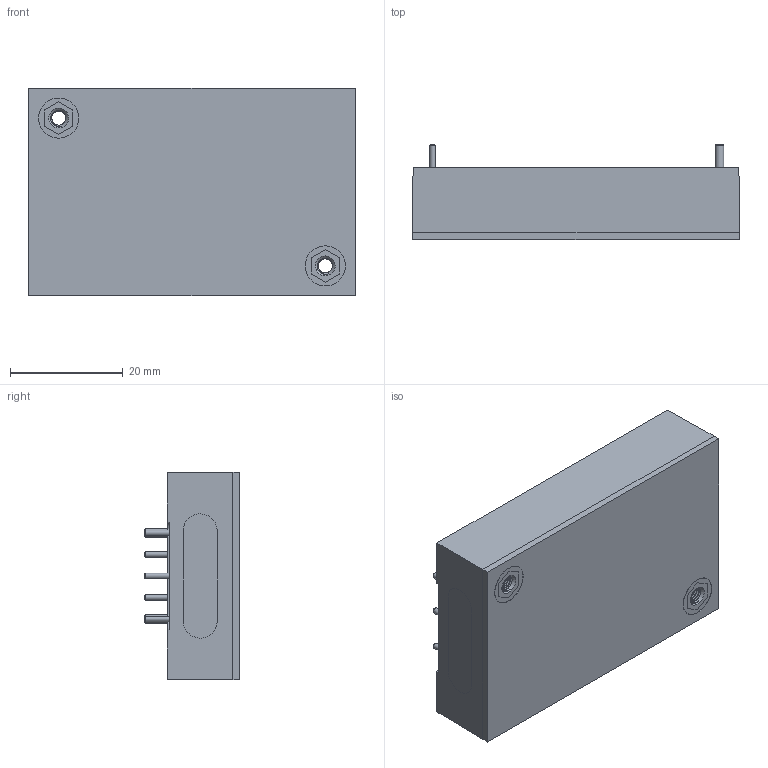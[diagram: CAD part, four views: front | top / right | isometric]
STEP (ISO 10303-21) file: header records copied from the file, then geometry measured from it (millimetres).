
FILE_DESCRIPTION (( 'STEP AP203' ), '1' );
FILE_NAME ('CQB60W-110S¦¨«~¹Ï2024.05.10.STEP', '2024-05-10T03:31:08', ( '' ), ( '' ), 'SwSTEP 2.0', 'SolidWorks 2020', '' );
FILE_SCHEMA (( 'CONFIG_CONTROL_DESIGN' ));
Length unit declared in the file: millimetre
Products named in the file (1): CQB60W-110S成品圖2024.05.10
Bounding box: 57.9 x 16.9 x 36.8 mm (x, y, z)
Volume: 26874.9 mm3; surface area: 7948.6 mm2
Topology: 3 solids, 3 shells, 495 faces, 1268 edges, 845 vertices
Faces by surface type: plane 323, bspline 127, cylinder 23, cone 22
Full cylindrical faces by diameter (mm): 1 x6, 1.5 x2, 3.9 x2, 4.2 x5, 7.1 x2
Entity records: 25981 total; most frequent: CARTESIAN_POINT 14951, ORIENTED_EDGE 2420, DIRECTION 1768, EDGE_CURVE 1210, VECTOR 862, LINE 862, VERTEX_POINT 826, EDGE_LOOP 608
